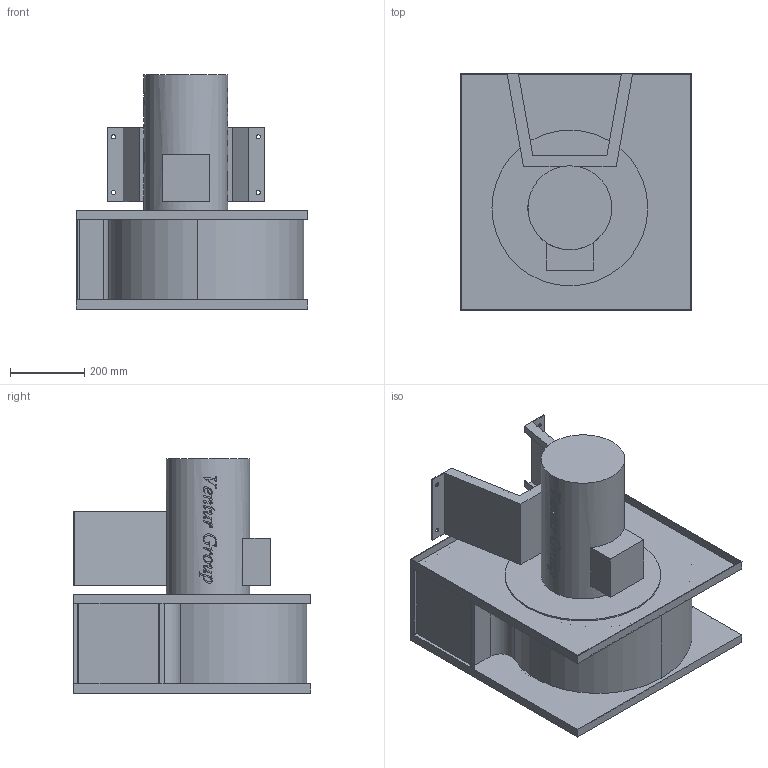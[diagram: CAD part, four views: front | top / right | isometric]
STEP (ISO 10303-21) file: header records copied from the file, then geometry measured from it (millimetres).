
FILE_DESCRIPTION(/* description */ (''),/* implementation_level */ '2;1');
FILE_NAME(/* name */ 'E:\Mariusz\Modele uproszczone\LFB\LFB_4_355_144 435011090\LFB_4_355_144 435011090\LFB_4_355_144 435011090.stp',/* time_stamp */ '2018-07-10T09:25:48+02:00',/* author */ ('M.Janczarek'),/* organization */ (''),/* preprocessor_version */ 'ST-DEVELOPER v16.5',/* originating_system */ 'Autodesk Inventor 2017',/* authorisation */ '');
FILE_SCHEMA (('AUTOMOTIVE_DESIGN { 1 0 10303 214 3 1 1 }'));
Products named in the file (1): LFB_4_355_144 435011090
Bounding box: 625 x 640 x 631.05 mm (x, y, z)
Volume: 80288983.4 mm3; surface area: 2592456 mm2
Topology: 1 solids, 1 shells, 3753 faces, 11154 edges, 7364 vertices
Faces by surface type: plane 3307, bspline 383, cylinder 62, torus 1
Full cylindrical faces by diameter (mm): 8 x8, 9.2 x8, 11 x4, 226 x1, 287 x1, 420 x2
Entity records: 136060 total; most frequent: CARTESIAN_POINT 31545, ORIENTED_EDGE 22232, DIRECTION 17588, EDGE_CURVE 11116, LINE 10058, VECTOR 10058, VERTEX_POINT 7352, EDGE_LOOP 5228
